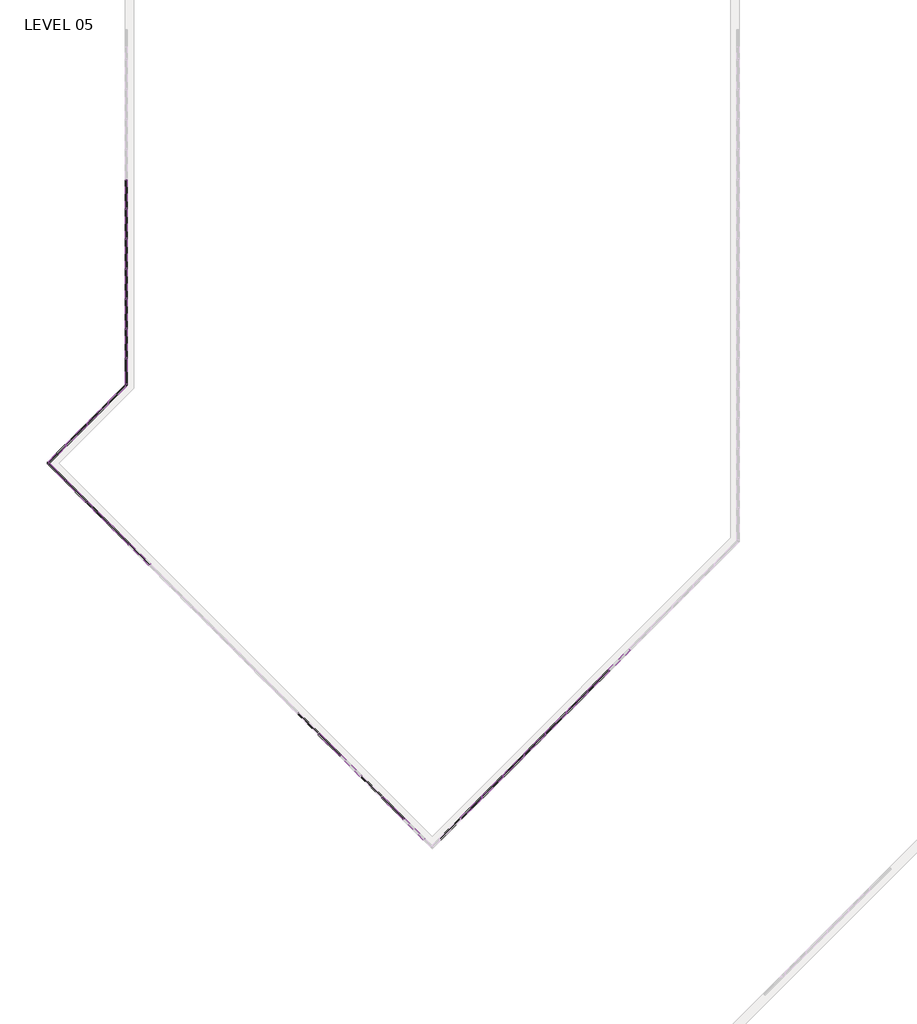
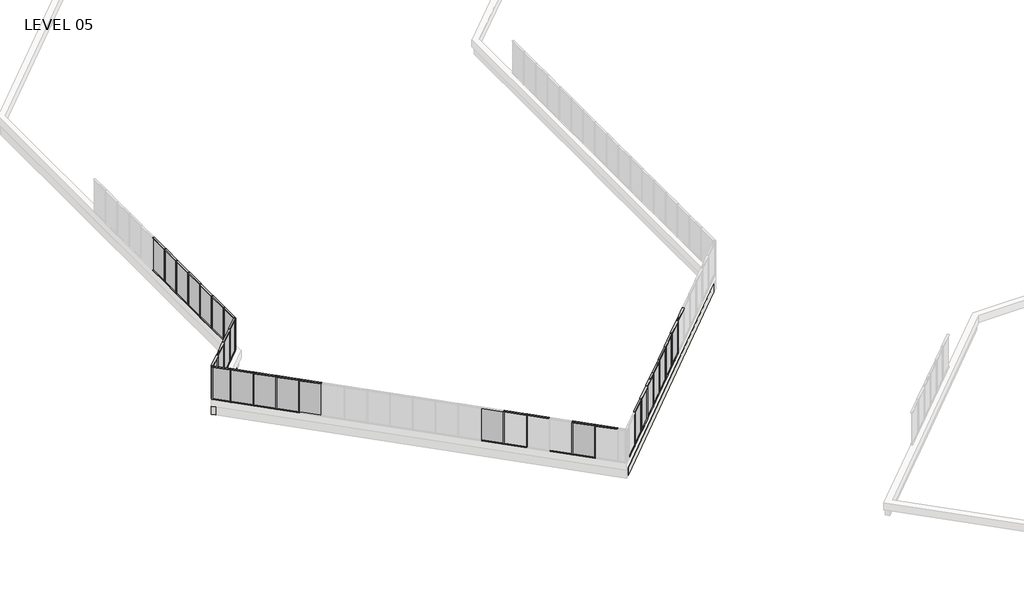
# One storey, part 3 of 17: 84 members, 25 plates, 2 walls.
"""IFC4 building model written with IfcOpenShell, lengths in millimetres."""

from ifc_helpers import new_model, si_unit, origin, place, context, project, spatial, faceted_brep, transform, mapped, element, save
from components import member_5247f267, member_e44af9ab, member_800970d4, member_45eb7f2e, member_53409b32, member_43bac76b, member_0b71a88d, plate_67294edd, plate_aaac5d3d, plate_048e4634, plate_9c66726c, plate_e0fd5134, plate_15429445, plate_0d1907f3, plate_903242d9

model = new_model("IFC4")

# Units and contexts
model_context = context("Model", 3, world=origin())
ifc_project = project(units=[si_unit("LENGTHUNIT", "METRE", prefix="MILLI")], contexts=[model_context])

# Site, building, storey
site = spatial("IfcSite", under=ifc_project)
building = spatial("IfcBuilding", under=site)
storey = spatial("IfcBuildingStorey", under=building, Name="LEVEL 05", Elevation=15824.2)

# Members
placement = place(None, origin())
member_shape = member_5247f267(model_context)
element("IfcMember", 1, ObjectType="Rectangular Mullion : 2\" x 4.5\" rectangular", at=placement, inside=storey, context=model_context, shape_type="MappedRepresentation", body=[
    mapped(member_shape, transform((-32784.0347164, 49110.5675885, 18415.0), x_axis=(0.0, 0.0, 1.0), y_axis=(1.0, 0.0, 0.0), z_axis=(0.0, 1.0, 0.0))),
])
element("IfcMember", 2, ObjectType="Rectangular Mullion : 2\" x 4.5\" rectangular", at=placement, inside=storey, context=model_context, shape_type="MappedRepresentation", body=[
    mapped(member_shape, transform((-32784.0347164, 50634.5675885, 18415.0), x_axis=(0.0, 0.0, 1.0), y_axis=(1.0, 0.0, 0.0), z_axis=(0.0, 1.0, 0.0))),
])
element("IfcMember", 3, ObjectType="Rectangular Mullion : 2\" x 4.5\" rectangular", at=placement, inside=storey, context=model_context, shape_type="MappedRepresentation", body=[
    mapped(member_shape, transform((-32784.0347164, 56730.5675885, 18415.0), x_axis=(0.0, 0.0, 1.0), y_axis=(1.0, 0.0, 0.0), z_axis=(0.0, 1.0, 0.0))),
])
element("IfcMember", 4, ObjectType="Rectangular Mullion : 2\" x 4.5\" rectangular", at=placement, inside=storey, context=model_context, shape_type="MappedRepresentation", body=[
    mapped(member_shape, transform((-32784.0347164, 52158.5675885, 18415.0), x_axis=(0.0, 0.0, 1.0), y_axis=(1.0, 0.0, 0.0), z_axis=(0.0, 1.0, 0.0))),
])
element("IfcMember", 5, ObjectType="Rectangular Mullion : 2\" x 4.5\" rectangular", at=placement, inside=storey, context=model_context, shape_type="MappedRepresentation", body=[
    mapped(member_shape, transform((-32784.0347164, 55206.5675885, 18415.0), x_axis=(0.0, 0.0, 1.0), y_axis=(1.0, 0.0, 0.0), z_axis=(0.0, 1.0, 0.0))),
])
element("IfcMember", 6, ObjectType="Rectangular Mullion : 2\" x 4.5\" rectangular", at=placement, inside=storey, context=model_context, shape_type="MappedRepresentation", body=[
    mapped(member_shape, transform((-32784.0347164, 53682.5675885, 18415.0), x_axis=(0.0, 0.0, 1.0), y_axis=(1.0, 0.0, 0.0), z_axis=(0.0, 1.0, 0.0))),
])
element("IfcMember", 7, ObjectType="Rectangular Mullion : 2\" x 4.5\" rectangular", at=placement, inside=storey, context=model_context, shape_type="MappedRepresentation", body=[
    mapped(member_shape, transform((-8176.5824051, 31737.5637642, 18415.0), x_axis=(0.0, 0.0, 1.0), y_axis=(-0.7071067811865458, 0.7071067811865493, 0.0), z_axis=(-0.7071067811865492, -0.7071067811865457, 0.0))),
])
element("IfcMember", 8, ObjectType="Rectangular Mullion : 2\" x 4.5\" rectangular", at=placement, inside=storey, context=model_context, shape_type="MappedRepresentation", body=[
    mapped(member_shape, transform((-9254.1983379, 30659.9478314, 18415.0), x_axis=(0.0, 0.0, 1.0), y_axis=(-0.7071067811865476, 0.7071067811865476, 0.0), z_axis=(-0.7071067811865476, -0.7071067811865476, 0.0))),
])
element("IfcMember", 9, ObjectType="Rectangular Mullion : 2\" x 4.5\" rectangular", at=placement, inside=storey, context=model_context, shape_type="MappedRepresentation", body=[
    mapped(member_shape, transform((-10331.8142707, 29582.3318986, 18415.0), x_axis=(0.0, 0.0, 1.0), y_axis=(-0.7071067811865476, 0.7071067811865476, 0.0), z_axis=(-0.7071067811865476, -0.7071067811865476, 0.0))),
])
element("IfcMember", 10, ObjectType="Rectangular Mullion : 2\" x 4.5\" rectangular", at=placement, inside=storey, context=model_context, shape_type="MappedRepresentation", body=[
    mapped(member_shape, transform((-11409.4302035, 28504.7159658, 18415.0), x_axis=(0.0, 0.0, 1.0), y_axis=(-0.7071067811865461, 0.707106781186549, 0.0), z_axis=(-0.707106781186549, -0.7071067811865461, 0.0))),
])
element("IfcMember", 11, ObjectType="Rectangular Mullion : 2\" x 4.5\" rectangular", at=placement, inside=storey, context=model_context, shape_type="MappedRepresentation", body=[
    mapped(member_shape, transform((-13564.6768709, 26349.4692984, 18415.0), x_axis=(0.0, 0.0, 1.0), y_axis=(-0.7071067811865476, 0.7071067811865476, 0.0), z_axis=(-0.7071067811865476, -0.7071067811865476, 0.0))),
])
element("IfcMember", 12, ObjectType="Rectangular Mullion : 2\" x 4.5\" rectangular", at=placement, inside=storey, context=model_context, shape_type="MappedRepresentation", body=[
    mapped(member_shape, transform((-12487.0535372, 27427.0926321, 18415.0), x_axis=(0.0, 0.0, 1.0), y_axis=(-0.7071067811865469, 0.7071067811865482, 0.0), z_axis=(-0.7071067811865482, -0.7071067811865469, 0.0))),
])
element("IfcMember", 13, ObjectType="Rectangular Mullion : 2\" x 4.5\" rectangular", at=placement, inside=storey, context=model_context, shape_type="MappedRepresentation", body=[
    mapped(member_shape, transform((-14642.3076054, 25271.8385639, 18415.0), x_axis=(0.0, 0.0, 1.0), y_axis=(-0.7071067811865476, 0.7071067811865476, 0.0), z_axis=(-0.7071067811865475, -0.7071067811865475, 0.0))),
])
element("IfcMember", 14, ObjectType="Rectangular Mullion : 2\" x 4.5\" rectangular", at=placement, inside=storey, context=model_context, shape_type="MappedRepresentation", body=[
    mapped(member_shape, transform((-15719.9383399, 24194.2078294, 18415.0), x_axis=(0.0, 0.0, 1.0), y_axis=(-0.7071067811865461, 0.7071067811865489, 0.0), z_axis=(-0.7071067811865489, -0.7071067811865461, 0.0))),
])
element("IfcMember", 15, ObjectType="Rectangular Mullion : 2\" x 4.5\" rectangular", at=placement, inside=storey, context=model_context, shape_type="MappedRepresentation", body=[
    mapped(member_shape, transform((-19717.6908029, 25235.9175394, 18415.0), x_axis=(0.0, 0.0, 1.0), y_axis=(0.7071067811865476, 0.7071067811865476, 0.0), z_axis=(-0.7071067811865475, 0.7071067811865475, 0.0))),
])
element("IfcMember", 16, ObjectType="Rectangular Mullion : 2\" x 4.5\" rectangular", at=placement, inside=storey, context=model_context, shape_type="MappedRepresentation", body=[
    mapped(member_shape, transform((-22950.547272, 28468.7740085, 18415.0), x_axis=(0.0, 0.0, 1.0), y_axis=(0.7071067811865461, 0.707106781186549, 0.0), z_axis=(-0.707106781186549, 0.7071067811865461, 0.0))),
])
element("IfcMember", 17, ObjectType="Rectangular Mullion : 2\" x 4.5\" rectangular", at=placement, inside=storey, context=model_context, shape_type="MappedRepresentation", body=[
    mapped(member_shape, transform((-18640.0600684, 24158.2868049, 18415.0), x_axis=(0.0, 0.0, 1.0), y_axis=(0.7071067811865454, 0.7071067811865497, 0.0), z_axis=(-0.7071067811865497, 0.7071067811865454, 0.0))),
])
element("IfcMember", 18, ObjectType="Rectangular Mullion : 2\" x 4.5\" rectangular", at=placement, inside=storey, context=model_context, shape_type="MappedRepresentation", body=[
    mapped(member_shape, transform((-21872.9344047, 27391.1611412, 18415.0), x_axis=(0.0, 0.0, 1.0), y_axis=(0.7071067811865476, 0.7071067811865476, 0.0), z_axis=(-0.7071067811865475, 0.7071067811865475, 0.0))),
])
element("IfcMember", 19, ObjectType="Rectangular Mullion : 2\" x 4.5\" rectangular", at=placement, inside=storey, context=model_context, shape_type="MappedRepresentation", body=[
    mapped(member_shape, transform((-32625.1316457, 38143.3583822, 18415.0), x_axis=(0.0, 0.0, 1.0), y_axis=(0.7071067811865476, 0.7071067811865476, 0.0), z_axis=(-0.7071067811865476, 0.7071067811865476, 0.0))),
])
element("IfcMember", 20, ObjectType="Rectangular Mullion : 2\" x 4.5\" rectangular", at=placement, inside=storey, context=model_context, shape_type="MappedRepresentation", body=[
    mapped(member_shape, transform((-33702.7623802, 39220.9891167, 18415.0), x_axis=(0.0, 0.0, 1.0), y_axis=(0.7071067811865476, 0.7071067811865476, 0.0), z_axis=(-0.7071067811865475, 0.7071067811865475, 0.0))),
])
element("IfcMember", 21, ObjectType="Rectangular Mullion : 2\" x 4.5\" rectangular", at=placement, inside=storey, context=model_context, shape_type="MappedRepresentation", body=[
    mapped(member_shape, transform((-34780.3931147, 40298.6198512, 18415.0), x_axis=(0.0, 0.0, 1.0), y_axis=(0.7071067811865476, 0.7071067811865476, 0.0), z_axis=(-0.7071067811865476, 0.7071067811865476, 0.0))),
])
element("IfcMember", 22, ObjectType="Rectangular Mullion : 2\" x 4.5\" rectangular", at=placement, inside=storey, context=model_context, shape_type="MappedRepresentation", body=[
    mapped(member_shape, transform((-35858.0238493, 41376.2505858, 18415.0), x_axis=(0.0, 0.0, 1.0), y_axis=(0.7071067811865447, 0.7071067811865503, 0.0), z_axis=(-0.7071067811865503, 0.7071067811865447, 0.0))),
])
element("IfcMember", 23, ObjectType="Rectangular Mullion : 2\" x 4.5\" rectangular", at=placement, inside=storey, context=model_context, shape_type="MappedRepresentation", body=[
    mapped(member_shape, transform((-34789.2847655, 44248.423675, 18415.0), x_axis=(0.0, 0.0, 1.0), y_axis=(0.7071067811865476, -0.7071067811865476, 0.0), z_axis=(0.7071067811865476, 0.7071067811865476, 0.0))),
])
element("IfcMember", 24, ObjectType="Rectangular Mullion : 2\" x 4.5\" rectangular", at=placement, inside=storey, context=model_context, shape_type="MappedRepresentation", body=[
    mapped(member_shape, transform((-33711.654031, 45326.0544096, 18415.0), x_axis=(0.0, 0.0, 1.0), y_axis=(0.7071067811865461, -0.707106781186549, 0.0), z_axis=(0.7071067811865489, 0.707106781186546, 0.0))),
])
element("IfcMember", 25, ObjectType="Rectangular Mullion : 2\" x 4.5\" rectangular", at=placement, inside=storey, context=model_context, shape_type="MappedRepresentation", body=[
    mapped(member_shape, transform((-32784.0347164, 47637.3675885, 15824.2), x_axis=(0.0, 0.0, -1.0), y_axis=(1.0, 0.0, 0.0), z_axis=(0.0, -1.0, 0.0))),
])
element("IfcMember", 26, ObjectType="Rectangular Mullion : 2\" x 4.5\" rectangular", at=placement, inside=storey, context=model_context, shape_type="MappedRepresentation", body=[
    mapped(member_shape, transform((-32784.0347164, 49161.3675885, 15824.2), x_axis=(0.0, 0.0, -1.0), y_axis=(1.0, 0.0, 0.0), z_axis=(0.0, -1.0, 0.0))),
])
element("IfcMember", 27, ObjectType="Rectangular Mullion : 2\" x 4.5\" rectangular", at=placement, inside=storey, context=model_context, shape_type="MappedRepresentation", body=[
    mapped(member_shape, transform((-32784.0347164, 50685.3675885, 15824.2), x_axis=(0.0, 0.0, -1.0), y_axis=(1.0, 0.0, 0.0), z_axis=(0.0, -1.0, 0.0))),
])
element("IfcMember", 28, ObjectType="Rectangular Mullion : 2\" x 4.5\" rectangular", at=placement, inside=storey, context=model_context, shape_type="MappedRepresentation", body=[
    mapped(member_shape, transform((-32784.0347164, 52209.3675885, 15824.2), x_axis=(0.0, 0.0, -1.0), y_axis=(1.0, 0.0, 0.0), z_axis=(0.0, -1.0, 0.0))),
])
element("IfcMember", 29, ObjectType="Rectangular Mullion : 2\" x 4.5\" rectangular", at=placement, inside=storey, context=model_context, shape_type="MappedRepresentation", body=[
    mapped(member_shape, transform((-32784.0347164, 55257.3675885, 15824.2), x_axis=(0.0, 0.0, -1.0), y_axis=(1.0, 0.0, 0.0), z_axis=(0.0, -1.0, 0.0))),
])
element("IfcMember", 30, ObjectType="Rectangular Mullion : 2\" x 4.5\" rectangular", at=placement, inside=storey, context=model_context, shape_type="MappedRepresentation", body=[
    mapped(member_shape, transform((-32784.0347164, 53733.3675885, 15824.2), x_axis=(0.0, 0.0, -1.0), y_axis=(1.0, 0.0, 0.0), z_axis=(0.0, -1.0, 0.0))),
])
element("IfcMember", 31, ObjectType="Rectangular Mullion : 2\" x 4.5\" rectangular", at=placement, inside=storey, context=model_context, shape_type="MappedRepresentation", body=[
    mapped(member_shape, transform((-8212.5034296, 31701.6427397, 15824.2), x_axis=(0.0, 0.0, -1.0), y_axis=(-0.7071067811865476, 0.7071067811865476, 0.0), z_axis=(0.7071067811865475, 0.7071067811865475, 0.0))),
])
element("IfcMember", 32, ObjectType="Rectangular Mullion : 2\" x 4.5\" rectangular", at=placement, inside=storey, context=model_context, shape_type="MappedRepresentation", body=[
    mapped(member_shape, transform((-9290.1193624, 30624.0268069, 15824.2), x_axis=(0.0, 0.0, -1.0), y_axis=(-0.7071067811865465, 0.7071067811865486, 0.0), z_axis=(0.7071067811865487, 0.7071067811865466, 0.0))),
])
element("IfcMember", 33, ObjectType="Rectangular Mullion : 2\" x 4.5\" rectangular", at=placement, inside=storey, context=model_context, shape_type="MappedRepresentation", body=[
    mapped(member_shape, transform((-10367.7352952, 29546.4108741, 15824.2), x_axis=(0.0, 0.0, -1.0), y_axis=(-0.7071067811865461, 0.707106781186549, 0.0), z_axis=(0.707106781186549, 0.7071067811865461, 0.0))),
])
element("IfcMember", 34, ObjectType="Rectangular Mullion : 2\" x 4.5\" rectangular", at=placement, inside=storey, context=model_context, shape_type="MappedRepresentation", body=[
    mapped(member_shape, transform((-11445.351228, 28468.7949413, 15824.2), x_axis=(0.0, 0.0, -1.0), y_axis=(-0.7071067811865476, 0.7071067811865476, 0.0), z_axis=(0.7071067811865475, 0.7071067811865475, 0.0))),
])
element("IfcMember", 35, ObjectType="Rectangular Mullion : 2\" x 4.5\" rectangular", at=placement, inside=storey, context=model_context, shape_type="MappedRepresentation", body=[
    mapped(member_shape, transform((-13600.5978954, 26313.5482739, 15824.2), x_axis=(0.0, 0.0, -1.0), y_axis=(-0.7071067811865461, 0.7071067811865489, 0.0), z_axis=(0.7071067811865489, 0.7071067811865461, 0.0))),
])
element("IfcMember", 36, ObjectType="Rectangular Mullion : 2\" x 4.5\" rectangular", at=placement, inside=storey, context=model_context, shape_type="MappedRepresentation", body=[
    mapped(member_shape, transform((-12522.9745617, 27391.1716076, 15824.2), x_axis=(0.0, 0.0, -1.0), y_axis=(-0.7071067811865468, 0.7071067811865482, 0.0), z_axis=(0.7071067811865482, 0.7071067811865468, 0.0))),
])
element("IfcMember", 37, ObjectType="Rectangular Mullion : 2\" x 4.5\" rectangular", at=placement, inside=storey, context=model_context, shape_type="MappedRepresentation", body=[
    mapped(member_shape, transform((-14678.2286299, 25235.9175394, 15824.2), x_axis=(0.0, 0.0, -1.0), y_axis=(-0.7071067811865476, 0.7071067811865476, 0.0), z_axis=(0.7071067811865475, 0.7071067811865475, 0.0))),
])
element("IfcMember", 38, ObjectType="Rectangular Mullion : 2\" x 4.5\" rectangular", at=placement, inside=storey, context=model_context, shape_type="MappedRepresentation", body=[
    mapped(member_shape, transform((-15755.8593644, 24158.2868049, 15824.2), x_axis=(0.0, 0.0, -1.0), y_axis=(-0.7071067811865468, 0.7071067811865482, 0.0), z_axis=(0.7071067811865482, 0.7071067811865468, 0.0))),
])
element("IfcMember", 39, ObjectType="Rectangular Mullion : 2\" x 4.5\" rectangular", at=placement, inside=storey, context=model_context, shape_type="MappedRepresentation", body=[
    mapped(member_shape, transform((-19753.6118274, 25271.8385639, 15824.2), x_axis=(0.0, 0.0, -1.0), y_axis=(0.7071067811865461, 0.707106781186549, 0.0), z_axis=(0.7071067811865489, -0.707106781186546, 0.0))),
])
element("IfcMember", 40, ObjectType="Rectangular Mullion : 2\" x 4.5\" rectangular", at=placement, inside=storey, context=model_context, shape_type="MappedRepresentation", body=[
    mapped(member_shape, transform((-22986.4682965, 28504.6950329, 15824.2), x_axis=(0.0, 0.0, -1.0), y_axis=(0.7071067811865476, 0.7071067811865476, 0.0), z_axis=(0.7071067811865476, -0.7071067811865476, 0.0))),
])
element("IfcMember", 41, ObjectType="Rectangular Mullion : 2\" x 4.5\" rectangular", at=placement, inside=storey, context=model_context, shape_type="MappedRepresentation", body=[
    mapped(member_shape, transform((-18675.9810929, 24194.2078294, 15824.2), x_axis=(0.0, 0.0, -1.0), y_axis=(0.7071067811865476, 0.7071067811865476, 0.0), z_axis=(0.7071067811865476, -0.7071067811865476, 0.0))),
])
element("IfcMember", 42, ObjectType="Rectangular Mullion : 2\" x 4.5\" rectangular", at=placement, inside=storey, context=model_context, shape_type="MappedRepresentation", body=[
    mapped(member_shape, transform((-21908.8554292, 27427.0821657, 15824.2), x_axis=(0.0, 0.0, -1.0), y_axis=(0.7071067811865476, 0.7071067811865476, 0.0), z_axis=(0.7071067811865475, -0.7071067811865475, 0.0))),
])
element("IfcMember", 43, ObjectType="Rectangular Mullion : 2\" x 4.5\" rectangular", at=placement, inside=storey, context=model_context, shape_type="MappedRepresentation", body=[
    mapped(member_shape, transform((-32661.0526702, 38179.2794067, 15824.2), x_axis=(0.0, 0.0, -1.0), y_axis=(0.7071067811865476, 0.7071067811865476, 0.0), z_axis=(0.7071067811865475, -0.7071067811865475, 0.0))),
])
element("IfcMember", 44, ObjectType="Rectangular Mullion : 2\" x 4.5\" rectangular", at=placement, inside=storey, context=model_context, shape_type="MappedRepresentation", body=[
    mapped(member_shape, transform((-33738.6834047, 39256.9101412, 15824.2), x_axis=(0.0, 0.0, -1.0), y_axis=(0.7071067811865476, 0.7071067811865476, 0.0), z_axis=(0.7071067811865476, -0.7071067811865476, 0.0))),
])
element("IfcMember", 45, ObjectType="Rectangular Mullion : 2\" x 4.5\" rectangular", at=placement, inside=storey, context=model_context, shape_type="MappedRepresentation", body=[
    mapped(member_shape, transform((-34816.3141392, 40334.5408757, 15824.2), x_axis=(0.0, 0.0, -1.0), y_axis=(0.7071067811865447, 0.7071067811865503, 0.0), z_axis=(0.7071067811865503, -0.7071067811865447, 0.0))),
])
element("IfcMember", 46, ObjectType="Rectangular Mullion : 2\" x 4.5\" rectangular", at=placement, inside=storey, context=model_context, shape_type="MappedRepresentation", body=[
    mapped(member_shape, transform((-34753.363741, 44284.3446995, 15824.2), x_axis=(0.0, 0.0, -1.0), y_axis=(0.7071067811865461, -0.707106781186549, 0.0), z_axis=(-0.7071067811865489, -0.707106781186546, 0.0))),
])
element("IfcMember", 47, ObjectType="Rectangular Mullion : 2\" x 4.5\" rectangular", at=placement, inside=storey, context=model_context, shape_type="MappedRepresentation", body=[
    mapped(member_shape, transform((-35830.9944756, 43206.713965, 15824.2), x_axis=(0.0, 0.0, -1.0), y_axis=(0.7071067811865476, -0.7071067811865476, 0.0), z_axis=(-0.7071067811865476, -0.7071067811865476, 0.0))),
])
member_2_shape = member_e44af9ab(model_context)
element("IfcMember", 48, ObjectType="Rectangular Mullion : 2\" x 4.5\" rectangular", at=placement, inside=storey, context=model_context, shape_type="MappedRepresentation", body=[
    mapped(member_2_shape, transform((-32784.0347164, 47611.9675885, 15824.2), x_axis=(0.0, 1.0, 0.0), y_axis=(1.0, 0.0, 0.0), z_axis=(0.0, 0.0, -1.0))),
])
element("IfcMember", 49, ObjectType="Rectangular Mullion : 2\" x 4.5\" rectangular", at=placement, inside=storey, context=model_context, shape_type="MappedRepresentation", body=[
    mapped(member_2_shape, transform((-32784.0347164, 49135.9675885, 15824.2), x_axis=(0.0, 1.0, 0.0), y_axis=(1.0, 0.0, 0.0), z_axis=(0.0, 0.0, -1.0))),
])
element("IfcMember", 50, ObjectType="Rectangular Mullion : 2\" x 4.5\" rectangular", at=placement, inside=storey, context=model_context, shape_type="MappedRepresentation", body=[
    mapped(member_2_shape, transform((-32784.0347164, 50659.9675885, 15824.2), x_axis=(0.0, 1.0, 0.0), y_axis=(1.0, 0.0, 0.0), z_axis=(0.0, 0.0, -1.0))),
])
element("IfcMember", 51, ObjectType="Rectangular Mullion : 2\" x 4.5\" rectangular", at=placement, inside=storey, context=model_context, shape_type="MappedRepresentation", body=[
    mapped(member_2_shape, transform((-32784.0347164, 52183.9675885, 15824.2), x_axis=(0.0, 1.0, 0.0), y_axis=(1.0, 0.0, 0.0), z_axis=(0.0, 0.0, -1.0))),
])
element("IfcMember", 52, ObjectType="Rectangular Mullion : 2\" x 4.5\" rectangular", at=placement, inside=storey, context=model_context, shape_type="MappedRepresentation", body=[
    mapped(member_2_shape, transform((-32784.0347164, 55231.9675885, 15824.2), x_axis=(0.0, 1.0, 0.0), y_axis=(1.0, 0.0, 0.0), z_axis=(0.0, 0.0, -1.0))),
])
element("IfcMember", 53, ObjectType="Rectangular Mullion : 2\" x 4.5\" rectangular", at=placement, inside=storey, context=model_context, shape_type="MappedRepresentation", body=[
    mapped(member_2_shape, transform((-32784.0347164, 53707.9675885, 15824.2), x_axis=(0.0, 1.0, 0.0), y_axis=(1.0, 0.0, 0.0), z_axis=(0.0, 0.0, -1.0))),
])
element("IfcMember", 54, ObjectType="Rectangular Mullion : 2\" x 4.5\" rectangular", at=placement, inside=storey, context=model_context, shape_type="MappedRepresentation", body=[
    mapped(member_2_shape, transform((-8194.5429174, 31719.6032519, 15824.2), x_axis=(-0.7071067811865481, -0.7071067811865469, 0.0), y_axis=(-0.7071067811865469, 0.7071067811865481, 0.0), z_axis=(0.0, 0.0, -1.0))),
])
element("IfcMember", 55, ObjectType="Rectangular Mullion : 2\" x 4.5\" rectangular", at=placement, inside=storey, context=model_context, shape_type="MappedRepresentation", body=[
    mapped(member_2_shape, transform((-9272.1588502, 30641.9873191, 15824.2), x_axis=(-0.7071067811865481, -0.7071067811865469, 0.0), y_axis=(-0.7071067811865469, 0.7071067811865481, 0.0), z_axis=(0.0, 0.0, -1.0))),
])
element("IfcMember", 56, ObjectType="Rectangular Mullion : 2\" x 4.5\" rectangular", at=placement, inside=storey, context=model_context, shape_type="MappedRepresentation", body=[
    mapped(member_2_shape, transform((-10349.774783, 29564.3713863, 15824.2), x_axis=(-0.7071067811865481, -0.7071067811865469, 0.0), y_axis=(-0.7071067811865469, 0.7071067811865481, 0.0), z_axis=(0.0, 0.0, -1.0))),
])
element("IfcMember", 57, ObjectType="Rectangular Mullion : 2\" x 4.5\" rectangular", at=placement, inside=storey, context=model_context, shape_type="MappedRepresentation", body=[
    mapped(member_2_shape, transform((-11427.3907158, 28486.7554535, 15824.2), x_axis=(-0.7071067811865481, -0.7071067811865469, 0.0), y_axis=(-0.7071067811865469, 0.7071067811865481, 0.0), z_axis=(0.0, 0.0, -1.0))),
])
element("IfcMember", 58, ObjectType="Rectangular Mullion : 2\" x 4.5\" rectangular", at=placement, inside=storey, context=model_context, shape_type="MappedRepresentation", body=[
    mapped(member_2_shape, transform((-13582.6373831, 26331.5087862, 15824.2), x_axis=(-0.7071067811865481, -0.7071067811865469, 0.0), y_axis=(-0.7071067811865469, 0.7071067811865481, 0.0), z_axis=(0.0, 0.0, -1.0))),
])
element("IfcMember", 59, ObjectType="Rectangular Mullion : 2\" x 4.5\" rectangular", at=placement, inside=storey, context=model_context, shape_type="MappedRepresentation", body=[
    mapped(member_2_shape, transform((-12505.0140495, 27409.1321198, 15824.2), x_axis=(-0.7071067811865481, -0.7071067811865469, 0.0), y_axis=(-0.7071067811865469, 0.7071067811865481, 0.0), z_axis=(0.0, 0.0, -1.0))),
])
element("IfcMember", 60, ObjectType="Rectangular Mullion : 2\" x 4.5\" rectangular", at=placement, inside=storey, context=model_context, shape_type="MappedRepresentation", body=[
    mapped(member_2_shape, transform((-14660.2681176, 25253.8780517, 15824.2), x_axis=(-0.7071067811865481, -0.7071067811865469, 0.0), y_axis=(-0.7071067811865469, 0.7071067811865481, 0.0), z_axis=(0.0, 0.0, -1.0))),
])
element("IfcMember", 61, ObjectType="Rectangular Mullion : 2\" x 4.5\" rectangular", at=placement, inside=storey, context=model_context, shape_type="MappedRepresentation", body=[
    mapped(member_2_shape, transform((-15737.8988522, 24176.2473171, 15824.2), x_axis=(-0.7071067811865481, -0.7071067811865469, 0.0), y_axis=(-0.7071067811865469, 0.7071067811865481, 0.0), z_axis=(0.0, 0.0, -1.0))),
])
element("IfcMember", 62, ObjectType="Rectangular Mullion : 2\" x 4.5\" rectangular", at=placement, inside=storey, context=model_context, shape_type="MappedRepresentation", body=[
    mapped(member_2_shape, transform((-19735.6513152, 25253.8780517, 15824.2), x_axis=(-0.7071067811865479, 0.7071067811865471, 0.0), y_axis=(0.7071067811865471, 0.7071067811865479, 0.0), z_axis=(0.0, 0.0, -1.0))),
])
element("IfcMember", 63, ObjectType="Rectangular Mullion : 2\" x 4.5\" rectangular", at=placement, inside=storey, context=model_context, shape_type="MappedRepresentation", body=[
    mapped(member_2_shape, transform((-22968.5077842, 28486.7345207, 15824.2), x_axis=(-0.7071067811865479, 0.7071067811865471, 0.0), y_axis=(0.7071067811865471, 0.7071067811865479, 0.0), z_axis=(0.0, 0.0, -1.0))),
])
element("IfcMember", 64, ObjectType="Rectangular Mullion : 2\" x 4.5\" rectangular", at=placement, inside=storey, context=model_context, shape_type="MappedRepresentation", body=[
    mapped(member_2_shape, transform((-18658.0205806, 24176.2473171, 15824.2), x_axis=(-0.7071067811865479, 0.7071067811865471, 0.0), y_axis=(0.7071067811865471, 0.7071067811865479, 0.0), z_axis=(0.0, 0.0, -1.0))),
])
element("IfcMember", 65, ObjectType="Rectangular Mullion : 2\" x 4.5\" rectangular", at=placement, inside=storey, context=model_context, shape_type="MappedRepresentation", body=[
    mapped(member_2_shape, transform((-21890.894917, 27409.1216534, 15824.2), x_axis=(-0.7071067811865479, 0.7071067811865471, 0.0), y_axis=(0.7071067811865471, 0.7071067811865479, 0.0), z_axis=(0.0, 0.0, -1.0))),
])
element("IfcMember", 66, ObjectType="Rectangular Mullion : 2\" x 4.5\" rectangular", at=placement, inside=storey, context=model_context, shape_type="MappedRepresentation", body=[
    mapped(member_2_shape, transform((-32643.0921579, 38161.3188944, 15824.2), x_axis=(-0.7071067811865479, 0.7071067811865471, 0.0), y_axis=(0.7071067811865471, 0.7071067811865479, 0.0), z_axis=(0.0, 0.0, -1.0))),
])
element("IfcMember", 67, ObjectType="Rectangular Mullion : 2\" x 4.5\" rectangular", at=placement, inside=storey, context=model_context, shape_type="MappedRepresentation", body=[
    mapped(member_2_shape, transform((-33720.7228924, 39238.9496289, 15824.2), x_axis=(-0.7071067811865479, 0.7071067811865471, 0.0), y_axis=(0.7071067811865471, 0.7071067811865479, 0.0), z_axis=(0.0, 0.0, -1.0))),
])
element("IfcMember", 68, ObjectType="Rectangular Mullion : 2\" x 4.5\" rectangular", at=placement, inside=storey, context=model_context, shape_type="MappedRepresentation", body=[
    mapped(member_2_shape, transform((-34798.353627, 40316.5803635, 15824.2), x_axis=(-0.7071067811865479, 0.7071067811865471, 0.0), y_axis=(0.7071067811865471, 0.7071067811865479, 0.0), z_axis=(0.0, 0.0, -1.0))),
])
element("IfcMember", 69, ObjectType="Rectangular Mullion : 2\" x 4.5\" rectangular", at=placement, inside=storey, context=model_context, shape_type="MappedRepresentation", body=[
    mapped(member_2_shape, transform((-35875.9843615, 41394.211098, 15824.2), x_axis=(-0.7071067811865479, 0.7071067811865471, 0.0), y_axis=(0.7071067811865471, 0.7071067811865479, 0.0), z_axis=(0.0, 0.0, -1.0))),
])
element("IfcMember", 70, ObjectType="Rectangular Mullion : 2\" x 4.5\" rectangular", at=placement, inside=storey, context=model_context, shape_type="MappedRepresentation", body=[
    mapped(member_2_shape, transform((-34771.3242533, 44266.3841873, 15824.2), x_axis=(0.7071067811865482, 0.7071067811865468, 0.0), y_axis=(0.7071067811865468, -0.7071067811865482, 0.0), z_axis=(0.0, 0.0, -1.0))),
])
element("IfcMember", 71, ObjectType="Rectangular Mullion : 2\" x 4.5\" rectangular", at=placement, inside=storey, context=model_context, shape_type="MappedRepresentation", body=[
    mapped(member_2_shape, transform((-33693.6935187, 45344.0149218, 15824.2), x_axis=(0.7071067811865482, 0.7071067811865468, 0.0), y_axis=(0.7071067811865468, -0.7071067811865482, 0.0), z_axis=(0.0, 0.0, -1.0))),
])
element("IfcMember", 72, ObjectType="Rectangular Mullion : 2\" x 4.5\" rectangular", at=placement, inside=storey, context=model_context, shape_type="MappedRepresentation", body=[
    mapped(member_2_shape, transform((-35848.9549878, 43188.7534527, 15824.2), x_axis=(0.7071067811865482, 0.7071067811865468, 0.0), y_axis=(0.7071067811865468, -0.7071067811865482, 0.0), z_axis=(0.0, 0.0, -1.0))),
])
member_3_shape = member_800970d4(model_context)
element("IfcMember", 73, ObjectType="Rectangular Mullion : 2\" x 4.5\" rectangular", at=placement, inside=storey, context=model_context, shape_type="MappedRepresentation", body=[
    mapped(member_3_shape, transform((-36759.740852, 42277.9675885, 15824.2), x_axis=(-0.7071067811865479, 0.7071067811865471, 0.0), y_axis=(0.7071067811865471, 0.7071067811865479, 0.0), z_axis=(0.0, 0.0, -1.0))),
])
element("IfcMember", 74, ObjectType="Rectangular Mullion : 2\" x 4.5\" rectangular", at=placement, inside=storey, context=model_context, shape_type="MappedRepresentation", body=[
    mapped(member_3_shape, transform((-32784.0347164, 46253.6737241, 15824.2), x_axis=(0.7071067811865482, 0.7071067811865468, 0.0), y_axis=(0.7071067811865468, -0.7071067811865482, 0.0), z_axis=(0.0, 0.0, -1.0))),
])
element("IfcMember", 75, ObjectType="Rectangular Mullion : 2\" x 4.5\" rectangular", at=placement, inside=storey, context=model_context, shape_type="MappedRepresentation", body=[
    mapped(member_3_shape, transform((-32784.0347164, 46253.6737241, 18415.0), x_axis=(0.0, -1.0, 0.0), y_axis=(1.0, 0.0, 0.0), z_axis=(0.0, 0.0, 1.0))),
])
element("IfcMember", 76, ObjectType="Rectangular Mullion : 2\" x 4.5\" rectangular", at=placement, inside=storey, context=model_context, shape_type="MappedRepresentation", body=[
    mapped(member_3_shape, transform((-36759.740852, 42277.9675885, 18415.0), x_axis=(-0.7071067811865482, -0.7071067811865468, 0.0), y_axis=(0.7071067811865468, -0.7071067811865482, 0.0), z_axis=(0.0, 0.0, 1.0))),
])
member_4_shape = member_45eb7f2e(model_context)
element("IfcMember", 77, ObjectType="Rectangular Mullion : 2\" x 4.5\" rectangular", at=placement, inside=storey, context=model_context, shape_type="MappedRepresentation", body=[
    mapped(member_4_shape, transform((-32784.0347164, 47586.5675885, 18415.0), x_axis=(0.0, 0.0, 1.0), y_axis=(1.0, 0.0, 0.0), z_axis=(0.0, 1.0, 0.0))),
])
element("IfcMember", 78, ObjectType="Rectangular Mullion : 2\" x 4.5\" rectangular", at=placement, inside=storey, context=model_context, shape_type="MappedRepresentation", body=[
    mapped(member_4_shape, transform((-32784.0347164, 46304.4737241, 15824.2), x_axis=(0.0, 0.0, -1.0), y_axis=(1.0, 0.0, 0.0), z_axis=(0.0, -1.0, 0.0))),
])
member_5_shape = member_53409b32(model_context)
element("IfcMember", 79, ObjectType="Rectangular Mullion : 2\" x 4.5\" rectangular", at=placement, inside=storey, context=model_context, shape_type="MappedRepresentation", body=[
    mapped(member_5_shape, transform((-36723.8198275, 42242.046564, 18415.0), x_axis=(0.0, 0.0, 1.0), y_axis=(0.7071067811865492, 0.7071067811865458, 0.0), z_axis=(-0.7071067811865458, 0.7071067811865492, 0.0))),
])
element("IfcMember", 80, ObjectType="Rectangular Mullion : 2\" x 4.5\" rectangular", at=placement, inside=storey, context=model_context, shape_type="MappedRepresentation", body=[
    mapped(member_5_shape, transform((-35893.9448737, 41412.1716102, 15824.2), x_axis=(0.0, 0.0, -1.0), y_axis=(0.7071067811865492, 0.7071067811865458, 0.0), z_axis=(0.7071067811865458, -0.7071067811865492, 0.0))),
])
member_6_shape = member_43bac76b(model_context)
element("IfcMember", 81, ObjectType="Rectangular Mullion : 2\" x 4.5\" rectangular", at=placement, inside=storey, context=model_context, shape_type="MappedRepresentation", body=[
    mapped(member_6_shape, transform((-32819.9557409, 46217.7526997, 18415.0), x_axis=(0.0, 0.0, 1.0), y_axis=(0.7071067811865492, -0.7071067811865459, 0.0), z_axis=(0.7071067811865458, 0.7071067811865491, 0.0))),
])
member_7_shape = member_0b71a88d(model_context)
element("IfcMember", 82, ObjectType="Rectangular Mullion : 2\" x 4.5\" rectangular", at=placement, inside=storey, context=model_context, shape_type="MappedRepresentation", body=[
    mapped(member_7_shape, transform((-36723.8198275, 42313.888613, 15824.2), x_axis=(0.0, 0.0, -1.0), y_axis=(0.7071067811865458, -0.7071067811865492, 0.0), z_axis=(-0.7071067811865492, -0.7071067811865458, 0.0))),
])
element("IfcMember", 83, ObjectType="Rectangular Mullion : 2\" x 4.5\" rectangular", at=placement, inside=storey, context=model_context, shape_type="MappedRepresentation", body=[
    mapped(member_6_shape, transform((-33675.7330065, 45361.975434, 15824.2), x_axis=(0.0, 0.0, -1.0), y_axis=(0.7071067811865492, -0.7071067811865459, 0.0), z_axis=(-0.7071067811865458, -0.7071067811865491, 0.0))),
])
element("IfcMember", 84, ObjectType="Rectangular Mullion : 2\" x 4.5\" rectangular", at=placement, inside=storey, context=model_context, shape_type="MappedRepresentation", body=[
    mapped(member_7_shape, transform((-35866.9155, 43170.7929405, 18415.0), x_axis=(0.0, 0.0, 1.0), y_axis=(0.7071067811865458, -0.7071067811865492, 0.0), z_axis=(0.7071067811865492, 0.7071067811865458, 0.0))),
])

# Plates
plate_shape = plate_67294edd(model_context)
element("IfcPlate", 85, ObjectType="System Panel : 1/4\" Glass", at=placement, inside=storey, context=model_context, shape_type="MappedRepresentation", body=[
    mapped(plate_shape, transform((-32784.0347164, 48373.9675885, 15875.0), x_axis=(0.0, 1.0, 0.0), y_axis=(-1.0, 0.0, 0.0), z_axis=(0.0, 0.0, 1.0))),
])
element("IfcPlate", 86, ObjectType="System Panel : 1/4\" Glass", at=placement, inside=storey, context=model_context, shape_type="MappedRepresentation", body=[
    mapped(plate_shape, transform((-32784.0347164, 49897.9675885, 15875.0), x_axis=(0.0, 1.0, 0.0), y_axis=(-1.0, 0.0, 0.0), z_axis=(0.0, 0.0, 1.0))),
])
element("IfcPlate", 87, ObjectType="System Panel : 1/4\" Glass", at=placement, inside=storey, context=model_context, shape_type="MappedRepresentation", body=[
    mapped(plate_shape, transform((-32784.0347164, 51421.9675885, 15875.0), x_axis=(0.0, 1.0, 0.0), y_axis=(-1.0, 0.0, 0.0), z_axis=(0.0, 0.0, 1.0))),
])
element("IfcPlate", 88, ObjectType="System Panel : 1/4\" Glass", at=placement, inside=storey, context=model_context, shape_type="MappedRepresentation", body=[
    mapped(plate_shape, transform((-32784.0347164, 52945.9675885, 15875.0), x_axis=(0.0, 1.0, 0.0), y_axis=(-1.0, 0.0, 0.0), z_axis=(0.0, 0.0, 1.0))),
])
element("IfcPlate", 89, ObjectType="System Panel : 1/4\" Glass", at=placement, inside=storey, context=model_context, shape_type="MappedRepresentation", body=[
    mapped(plate_shape, transform((-32784.0347164, 55993.9675885, 15875.0), x_axis=(0.0, 1.0, 0.0), y_axis=(-1.0, 0.0, 0.0), z_axis=(0.0, 0.0, 1.0))),
])
element("IfcPlate", 90, ObjectType="System Panel : 1/4\" Glass", at=placement, inside=storey, context=model_context, shape_type="MappedRepresentation", body=[
    mapped(plate_shape, transform((-32784.0347164, 54469.9675885, 15875.0), x_axis=(0.0, 1.0, 0.0), y_axis=(-1.0, 0.0, 0.0), z_axis=(0.0, 0.0, 1.0))),
])
element("IfcPlate", 91, ObjectType="System Panel : 1/4\" Glass", at=placement, inside=storey, context=model_context, shape_type="MappedRepresentation", body=[
    mapped(plate_shape, transform((-14121.4527504, 25792.6934189, 15875.0), x_axis=(-0.7071067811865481, -0.7071067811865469, 0.0), y_axis=(0.7071067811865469, -0.7071067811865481, 0.0), z_axis=(0.0, 0.0, 1.0))),
])
element("IfcPlate", 92, ObjectType="System Panel : 1/4\" Glass", at=placement, inside=storey, context=model_context, shape_type="MappedRepresentation", body=[
    mapped(plate_shape, transform((-15199.0834849, 24715.0626844, 15875.0), x_axis=(-0.7071067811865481, -0.7071067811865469, 0.0), y_axis=(0.7071067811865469, -0.7071067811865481, 0.0), z_axis=(0.0, 0.0, 1.0))),
])
element("IfcPlate", 93, ObjectType="System Panel : 1/4\" Glass", at=placement, inside=storey, context=model_context, shape_type="MappedRepresentation", body=[
    mapped(plate_shape, transform((-32104.2767907, 37622.5035271, 15875.0), x_axis=(-0.7071067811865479, 0.7071067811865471, 0.0), y_axis=(-0.7071067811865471, -0.7071067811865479, 0.0), z_axis=(0.0, 0.0, 1.0))),
])
element("IfcPlate", 94, ObjectType="System Panel : 1/4\" Glass", at=placement, inside=storey, context=model_context, shape_type="MappedRepresentation", body=[
    mapped(plate_shape, transform((-19196.8359479, 24715.0626844, 15875.0), x_axis=(-0.7071067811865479, 0.7071067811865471, 0.0), y_axis=(-0.7071067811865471, -0.7071067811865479, 0.0), z_axis=(0.0, 0.0, 1.0))),
])
element("IfcPlate", 95, ObjectType="System Panel : 1/4\" Glass", at=placement, inside=storey, context=model_context, shape_type="MappedRepresentation", body=[
    mapped(plate_shape, transform((-33181.9075252, 38700.1342617, 15875.0), x_axis=(-0.7071067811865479, 0.7071067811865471, 0.0), y_axis=(-0.7071067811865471, -0.7071067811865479, 0.0), z_axis=(0.0, 0.0, 1.0))),
])
element("IfcPlate", 96, ObjectType="System Panel : 1/4\" Glass", at=placement, inside=storey, context=model_context, shape_type="MappedRepresentation", body=[
    mapped(plate_shape, transform((-34259.5382597, 39777.7649962, 15875.0), x_axis=(-0.7071067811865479, 0.7071067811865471, 0.0), y_axis=(-0.7071067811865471, -0.7071067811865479, 0.0), z_axis=(0.0, 0.0, 1.0))),
])
element("IfcPlate", 97, ObjectType="System Panel : 1/4\" Glass", at=placement, inside=storey, context=model_context, shape_type="MappedRepresentation", body=[
    mapped(plate_shape, transform((-35337.1689942, 40855.3957307, 15875.0), x_axis=(-0.7071067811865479, 0.7071067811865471, 0.0), y_axis=(-0.7071067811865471, -0.7071067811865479, 0.0), z_axis=(0.0, 0.0, 1.0))),
])
element("IfcPlate", 98, ObjectType="System Panel : 1/4\" Glass", at=placement, inside=storey, context=model_context, shape_type="MappedRepresentation", body=[
    mapped(plate_shape, transform((-34232.508886, 44805.1995545, 15875.0), x_axis=(0.7071067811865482, 0.7071067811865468, 0.0), y_axis=(-0.7071067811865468, 0.7071067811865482, 0.0), z_axis=(0.0, 0.0, 1.0))),
])
element("IfcPlate", 99, ObjectType="System Panel : 1/4\" Glass", at=placement, inside=storey, context=model_context, shape_type="MappedRepresentation", body=[
    mapped(plate_shape, transform((-35310.1396205, 43727.56882, 15875.0), x_axis=(0.7071067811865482, 0.7071067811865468, 0.0), y_axis=(-0.7071067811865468, 0.7071067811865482, 0.0), z_axis=(0.0, 0.0, 1.0))),
])
plate_2_shape = plate_aaac5d3d(model_context)
element("IfcPlate", 100, ObjectType="System Panel : 1/4\" Glass", at=placement, inside=storey, context=model_context, shape_type="MappedRepresentation", body=[
    mapped(plate_2_shape, transform((-8733.3508838, 31180.7952855, 15875.0), x_axis=(-0.7071067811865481, -0.7071067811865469, 0.0), y_axis=(0.7071067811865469, -0.7071067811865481, 0.0), z_axis=(0.0, 0.0, 1.0))),
])
element("IfcPlate", 101, ObjectType="System Panel : 1/4\" Glass", at=placement, inside=storey, context=model_context, shape_type="MappedRepresentation", body=[
    mapped(plate_2_shape, transform((-9810.9668166, 30103.1793527, 15875.0), x_axis=(-0.7071067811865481, -0.7071067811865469, 0.0), y_axis=(0.7071067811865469, -0.7071067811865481, 0.0), z_axis=(0.0, 0.0, 1.0))),
])
element("IfcPlate", 102, ObjectType="System Panel : 1/4\" Glass", at=placement, inside=storey, context=model_context, shape_type="MappedRepresentation", body=[
    mapped(plate_2_shape, transform((-10888.5827494, 29025.5634199, 15875.0), x_axis=(-0.7071067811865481, -0.7071067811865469, 0.0), y_axis=(0.7071067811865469, -0.7071067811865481, 0.0), z_axis=(0.0, 0.0, 1.0))),
])
plate_3_shape = plate_048e4634(model_context)
element("IfcPlate", 103, ObjectType="System Panel : 1/4\" Glass", at=placement, inside=storey, context=model_context, shape_type="MappedRepresentation", body=[
    mapped(plate_3_shape, transform((-23507.3052842, 29025.5320207, 15875.0), x_axis=(-0.7071067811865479, 0.7071067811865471, 0.0), y_axis=(-0.7071067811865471, -0.7071067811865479, 0.0), z_axis=(0.0, 0.0, 1.0))),
])
plate_4_shape = plate_9c66726c(model_context)
element("IfcPlate", 104, ObjectType="System Panel : 1/4\" Glass", at=placement, inside=storey, context=model_context, shape_type="MappedRepresentation", body=[
    mapped(plate_4_shape, transform((-32784.0347164, 46945.5206563, 15875.0), x_axis=(0.0, 1.0, 0.0), y_axis=(-1.0, 0.0, 0.0), z_axis=(0.0, 0.0, 1.0))),
])
plate_5_shape = plate_e0fd5134(model_context)
element("IfcPlate", 105, ObjectType="System Panel : 1/4\" Glass", at=placement, inside=storey, context=model_context, shape_type="MappedRepresentation", body=[
    mapped(plate_5_shape, transform((-11966.2023826, 27947.9437867, 15875.0), x_axis=(-0.7071067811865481, -0.7071067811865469, 0.0), y_axis=(0.7071067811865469, -0.7071067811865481, 0.0), z_axis=(0.0, 0.0, 1.0))),
])
element("IfcPlate", 106, ObjectType="System Panel : 1/4\" Glass", at=placement, inside=storey, context=model_context, shape_type="MappedRepresentation", body=[
    mapped(plate_5_shape, transform((-13043.8257163, 26870.320453, 15875.0), x_axis=(-0.7071067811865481, -0.7071067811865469, 0.0), y_axis=(0.7071067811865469, -0.7071067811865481, 0.0), z_axis=(0.0, 0.0, 1.0))),
])
plate_6_shape = plate_15429445(model_context)
element("IfcPlate", 107, ObjectType="System Panel : 1/4\" Glass", at=placement, inside=storey, context=model_context, shape_type="MappedRepresentation", body=[
    mapped(plate_6_shape, transform((-36295.3676638, 42742.3407768, 15875.0), x_axis=(0.7071067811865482, 0.7071067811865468, 0.0), y_axis=(-0.7071067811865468, 0.7071067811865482, 0.0), z_axis=(0.0, 0.0, 1.0))),
])
plate_7_shape = plate_0d1907f3(model_context)
element("IfcPlate", 108, ObjectType="System Panel : 1/4\" Glass", at=placement, inside=storey, context=model_context, shape_type="MappedRepresentation", body=[
    mapped(plate_7_shape, transform((-33247.8443737, 45789.8640669, 15875.0), x_axis=(0.7071067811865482, 0.7071067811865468, 0.0), y_axis=(-0.7071067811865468, 0.7071067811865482, 0.0), z_axis=(0.0, 0.0, 1.0))),
])
plate_8_shape = plate_903242d9(model_context)
element("IfcPlate", 109, ObjectType="System Panel : 1/4\" Glass", at=placement, inside=storey, context=model_context, shape_type="MappedRepresentation", body=[
    mapped(plate_8_shape, transform((-36308.8823506, 41827.1090871, 15875.0), x_axis=(-0.7071067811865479, 0.7071067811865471, 0.0), y_axis=(-0.7071067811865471, -0.7071067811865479, 0.0), z_axis=(0.0, 0.0, 1.0))),
])

# Walls
element("IfcWall", 110, ObjectType="01-CONCRETE-12", at=placement, inside=storey, context=model_context, shape_type="Brep", body=[
    faceted_brep([(-32841.1847164, 46277.3460292, 14643.1), (-36840.5631571, 42277.9675885, 14643.1), (-36840.5631571, 42277.9675885, 15265.4), (-32841.1847164, 46277.3460292, 15265.4), (-32841.1847164, 45846.2937354, 14643.1), (-32841.1847164, 45846.2937354, 15265.4), (-36409.5108633, 42277.9675885, 15265.4), (-36625.0370102, 42062.4414416, 15265.4), (-36625.0370102, 42062.4414416, 14643.1), (-36409.5108633, 42277.9675885, 14643.1)], [[[0, 1, 2, 3]], [[4, 5, 6, 7, 8, 9]], [[1, 0, 4, 9, 8]], [[3, 2, 7, 6, 5]], [[0, 3, 5, 4]], [[2, 1, 8, 7]]]),
])
element("IfcWall", 111, ObjectType="01-CONCRETE-12", at=placement, inside=storey, context=model_context, shape_type="Brep", body=[
    faceted_brep([(-16982.4335695, 22850.8902947, 14643.1), (-1859.5347164, 37973.7891478, 14643.1), (-1859.5347164, 37973.7891478, 15265.4), (-16982.4335695, 22850.8902947, 15265.4), (-17197.9597164, 23066.4164416, 14643.1), (-17197.9597164, 23066.4164416, 15265.4), (-12895.6477899, 27368.7283682, 15265.4), (-12464.595496, 27799.780662, 15265.4), (-2149.4557409, 38114.9204171, 15265.4), (-1859.5347164, 38404.8414416, 15265.4), (-1859.5347164, 38404.8414416, 14643.1), (-2149.4557409, 38114.9204171, 14643.1), (-12464.595496, 27799.780662, 14643.1), (-12895.6477899, 27368.7283682, 14643.1)], [[[0, 1, 2, 3]], [[4, 5, 6, 7, 8, 9, 10, 11, 12, 13]], [[1, 0, 4, 13, 12, 11, 10]], [[3, 2, 9, 8, 7, 6, 5]], [[0, 3, 5, 4]], [[2, 1, 10, 9]]]),
])

save(model, "model.ifc")
